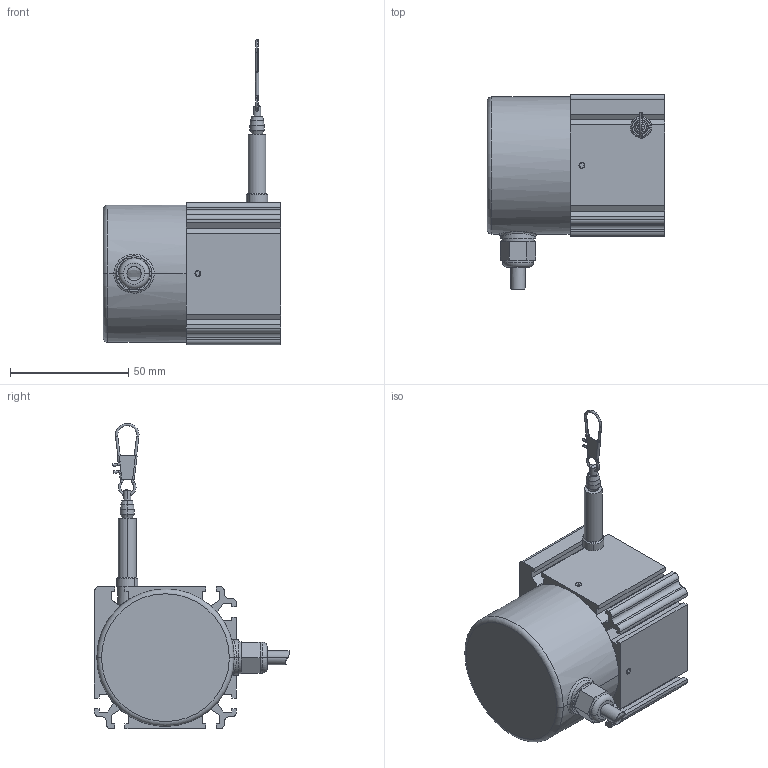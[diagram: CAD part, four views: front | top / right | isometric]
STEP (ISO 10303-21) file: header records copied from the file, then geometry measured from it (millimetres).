
FILE_DESCRIPTION((''),'2;1');
FILE_NAME('','2007-03-21T',(''),(''),'PRO/ENGINEER BY PARAMETRIC TECHNOLOGY CORPORATION, 2003250','PRO/ENGINEER BY PARAMETRIC TECHNOLOGY CORPORATION, 2003250','');
FILE_SCHEMA(('CONFIG_CONTROL_DESIGN'));
Length unit declared in the file: millimetre
Bounding box: 75 x 82.46 x 128.99 mm (x, y, z)
Volume: 148023.8 mm3; surface area: 42507.8 mm2
Topology: 1 solids, 2 shells, 288 faces, 735 edges, 460 vertices
Faces by surface type: plane 167, cylinder 72, cone 24, torus 20, bspline 2, sphere 2, extrusion 1
Entity records: 9186 total; most frequent: CARTESIAN_POINT 2079, DIRECTION 1518, ORIENTED_EDGE 1454, EDGE_CURVE 727, AXIS2_PLACEMENT_3D 538, VERTEX_POINT 460, VECTOR 442, LINE 441
